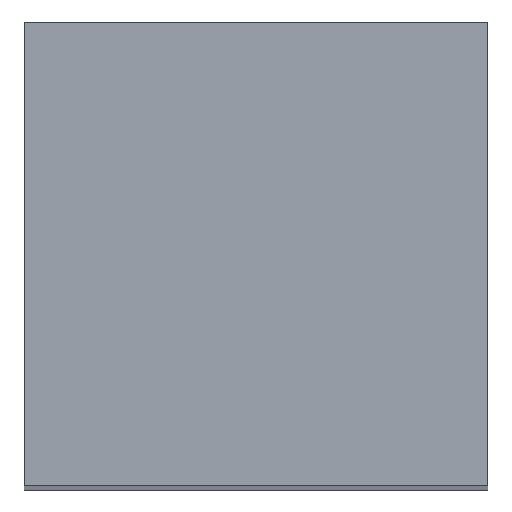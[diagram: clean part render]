
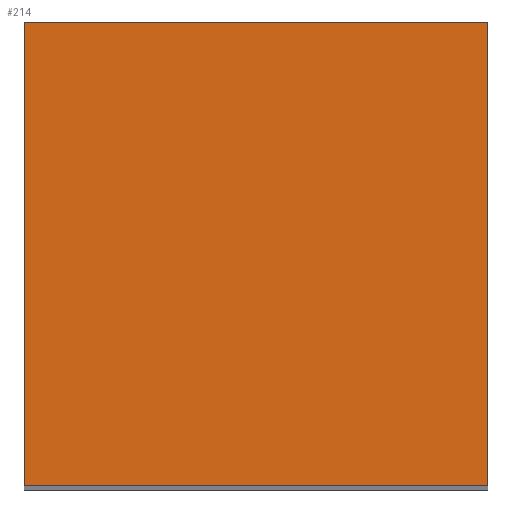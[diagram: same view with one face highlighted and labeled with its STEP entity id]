
A CAD part, top view. The second image highlights one B-rep face of the part: STEP entity #214.
In plain terms, the highlighted planar face has unit normal (0, 0, 1).
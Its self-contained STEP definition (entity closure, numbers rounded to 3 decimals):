
#26=PLANE('',#250);
#40=FACE_OUTER_BOUND('',#54,.T.);
#54=EDGE_LOOP('',(#176,#177,#178,#179));
#66=LINE('',#350,#82);
#69=LINE('',#356,#85);
#72=LINE('',#362,#88);
#75=LINE('',#366,#91);
#82=VECTOR('',#294,10.);
#85=VECTOR('',#299,10.);
#88=VECTOR('',#304,10.);
#91=VECTOR('',#309,10.);
#110=VERTEX_POINT('',#347);
#111=VERTEX_POINT('',#349);
#113=VERTEX_POINT('',#355);
#115=VERTEX_POINT('',#361);
#130=EDGE_CURVE('',#111,#110,#66,.T.);
#133=EDGE_CURVE('',#113,#111,#69,.T.);
#136=EDGE_CURVE('',#115,#113,#72,.T.);
#139=EDGE_CURVE('',#110,#115,#75,.T.);
#176=ORIENTED_EDGE('',*,*,#139,.T.);
#177=ORIENTED_EDGE('',*,*,#136,.T.);
#178=ORIENTED_EDGE('',*,*,#133,.T.);
#179=ORIENTED_EDGE('',*,*,#130,.T.);
#214=ADVANCED_FACE('',(#40),#26,.T.);
#250=AXIS2_PLACEMENT_3D('',#367,#310,#311);
#294=DIRECTION('',(0.,-1.,0.));
#299=DIRECTION('',(-1.,0.,0.));
#304=DIRECTION('',(0.,1.,0.));
#309=DIRECTION('',(1.,0.,0.));
#310=DIRECTION('center_axis',(0.,0.,1.));
#311=DIRECTION('ref_axis',(1.,0.,0.));
#347=CARTESIAN_POINT('',(0.,0.,1015.));
#349=CARTESIAN_POINT('',(0.,200.,1015.));
#350=CARTESIAN_POINT('',(0.,0.,1015.));
#355=CARTESIAN_POINT('',(200.,200.,1015.));
#356=CARTESIAN_POINT('',(0.,200.,1015.));
#361=CARTESIAN_POINT('',(200.,0.,1015.));
#362=CARTESIAN_POINT('',(200.,200.,1015.));
#366=CARTESIAN_POINT('',(200.,0.,1015.));
#367=CARTESIAN_POINT('Origin',(100.,100.,1015.));
